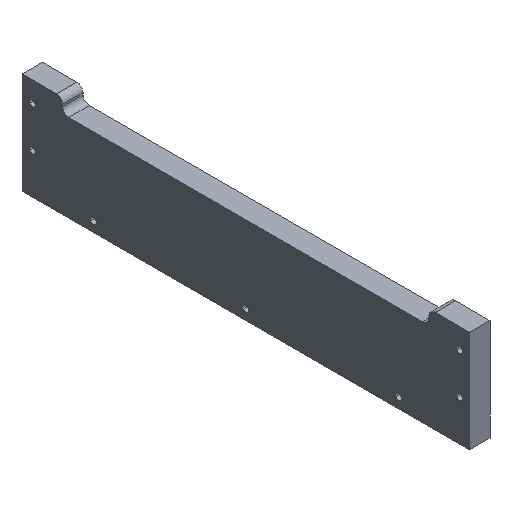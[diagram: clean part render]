
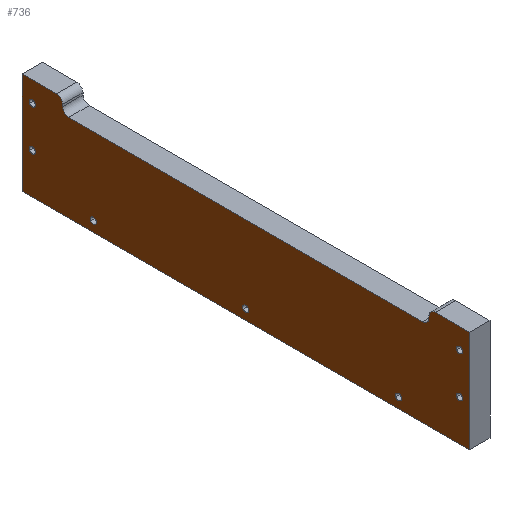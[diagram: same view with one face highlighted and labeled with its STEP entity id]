
A CAD part, isometric view. The second image highlights one B-rep face of the part: STEP entity #736.
In plain terms, the highlighted planar face has unit normal (-1, 0, 0).
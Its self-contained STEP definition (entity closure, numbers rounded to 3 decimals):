
#61=CARTESIAN_POINT('Vertex',(-10.,3.684,40.719)) ;
#66=CARTESIAN_POINT('Axis2P3D Location',(-10.,5.,40.)) ;
#70=CARTESIAN_POINT('Vertex',(-10.,6.316,39.281)) ;
#92=CARTESIAN_POINT('Axis2P3D Location',(-10.,5.,40.)) ;
#114=CARTESIAN_POINT('Line Origine',(-10.,110.,0.)) ;
#118=CARTESIAN_POINT('Vertex',(-10.,0.,0.)) ;
#120=CARTESIAN_POINT('Vertex',(-10.,220.,0.)) ;
#154=CARTESIAN_POINT('Line Origine',(-10.,220.,25.)) ;
#158=CARTESIAN_POINT('Vertex',(-10.,220.,50.)) ;
#185=CARTESIAN_POINT('Line Origine',(-10.,211.5,50.)) ;
#189=CARTESIAN_POINT('Vertex',(-10.,203.,50.)) ;
#216=CARTESIAN_POINT('Axis2P3D Location',(-10.,203.,47.)) ;
#220=CARTESIAN_POINT('Vertex',(-10.,200.,47.)) ;
#247=CARTESIAN_POINT('Line Origine',(-10.,200.,46.5)) ;
#251=CARTESIAN_POINT('Vertex',(-10.,200.,46.)) ;
#278=CARTESIAN_POINT('Axis2P3D Location',(-10.,197.,46.)) ;
#282=CARTESIAN_POINT('Vertex',(-10.,197.,43.)) ;
#309=CARTESIAN_POINT('Line Origine',(-10.,110.,43.)) ;
#313=CARTESIAN_POINT('Vertex',(-10.,23.,43.)) ;
#340=CARTESIAN_POINT('Axis2P3D Location',(-10.,23.,46.)) ;
#344=CARTESIAN_POINT('Vertex',(-10.,20.,46.)) ;
#371=CARTESIAN_POINT('Line Origine',(-10.,20.,46.5)) ;
#375=CARTESIAN_POINT('Vertex',(-10.,20.,47.)) ;
#402=CARTESIAN_POINT('Axis2P3D Location',(-10.,17.,47.)) ;
#406=CARTESIAN_POINT('Vertex',(-10.,17.,50.)) ;
#428=CARTESIAN_POINT('Line Origine',(-10.,8.5,50.)) ;
#432=CARTESIAN_POINT('Vertex',(-10.,0.,50.)) ;
#459=CARTESIAN_POINT('Line Origine',(-10.,0.,25.)) ;
#485=CARTESIAN_POINT('Vertex',(-10.,186.316,4.281)) ;
#490=CARTESIAN_POINT('Axis2P3D Location',(-10.,185.,5.)) ;
#494=CARTESIAN_POINT('Vertex',(-10.,183.684,5.719)) ;
#516=CARTESIAN_POINT('Axis2P3D Location',(-10.,185.,5.)) ;
#542=CARTESIAN_POINT('Vertex',(-10.,111.316,4.281)) ;
#547=CARTESIAN_POINT('Axis2P3D Location',(-10.,110.,5.)) ;
#551=CARTESIAN_POINT('Vertex',(-10.,108.684,5.719)) ;
#573=CARTESIAN_POINT('Axis2P3D Location',(-10.,110.,5.)) ;
#599=CARTESIAN_POINT('Vertex',(-10.,33.684,5.719)) ;
#604=CARTESIAN_POINT('Axis2P3D Location',(-10.,35.,5.)) ;
#608=CARTESIAN_POINT('Vertex',(-10.,36.316,4.281)) ;
#630=CARTESIAN_POINT('Axis2P3D Location',(-10.,35.,5.)) ;
#647=CARTESIAN_POINT('Axis2P3D Location',(-10.,0.,0.)) ;
#682=CARTESIAN_POINT('Axis2P3D Location',(-10.,5.,20.)) ;
#686=CARTESIAN_POINT('Vertex',(-10.,3.684,20.719)) ;
#688=CARTESIAN_POINT('Vertex',(-10.,6.316,19.281)) ;
#691=CARTESIAN_POINT('Axis2P3D Location',(-10.,5.,20.)) ;
#700=CARTESIAN_POINT('Axis2P3D Location',(-10.,215.,40.)) ;
#704=CARTESIAN_POINT('Vertex',(-10.,213.684,40.719)) ;
#706=CARTESIAN_POINT('Vertex',(-10.,216.316,39.281)) ;
#709=CARTESIAN_POINT('Axis2P3D Location',(-10.,215.,40.)) ;
#718=CARTESIAN_POINT('Axis2P3D Location',(-10.,215.,20.)) ;
#722=CARTESIAN_POINT('Vertex',(-10.,213.684,20.719)) ;
#724=CARTESIAN_POINT('Vertex',(-10.,216.316,19.281)) ;
#727=CARTESIAN_POINT('Axis2P3D Location',(-10.,215.,20.)) ;
#67=DIRECTION('Axis2P3D Direction',(-1.,0.,-0.)) ;
#93=DIRECTION('Axis2P3D Direction',(-1.,0.,-0.)) ;
#115=DIRECTION('Vector Direction',(0.,1.,0.)) ;
#155=DIRECTION('Vector Direction',(0.,0.,1.)) ;
#186=DIRECTION('Vector Direction',(0.,-1.,0.)) ;
#217=DIRECTION('Axis2P3D Direction',(1.,0.,0.)) ;
#248=DIRECTION('Vector Direction',(0.,0.,1.)) ;
#279=DIRECTION('Axis2P3D Direction',(1.,0.,0.)) ;
#310=DIRECTION('Vector Direction',(0.,-1.,0.)) ;
#341=DIRECTION('Axis2P3D Direction',(1.,0.,0.)) ;
#372=DIRECTION('Vector Direction',(0.,0.,-1.)) ;
#403=DIRECTION('Axis2P3D Direction',(1.,0.,0.)) ;
#429=DIRECTION('Vector Direction',(0.,-1.,0.)) ;
#460=DIRECTION('Vector Direction',(0.,0.,-1.)) ;
#491=DIRECTION('Axis2P3D Direction',(-1.,0.,0.)) ;
#517=DIRECTION('Axis2P3D Direction',(-1.,0.,0.)) ;
#548=DIRECTION('Axis2P3D Direction',(-1.,0.,0.)) ;
#574=DIRECTION('Axis2P3D Direction',(-1.,0.,0.)) ;
#605=DIRECTION('Axis2P3D Direction',(-1.,0.,-0.)) ;
#631=DIRECTION('Axis2P3D Direction',(-1.,0.,-0.)) ;
#648=DIRECTION('Axis2P3D Direction',(1.,0.,0.)) ;
#649=DIRECTION('Axis2P3D XDirection',(0.,1.,0.)) ;
#683=DIRECTION('Axis2P3D Direction',(1.,0.,0.)) ;
#692=DIRECTION('Axis2P3D Direction',(1.,0.,0.)) ;
#701=DIRECTION('Axis2P3D Direction',(1.,0.,0.)) ;
#710=DIRECTION('Axis2P3D Direction',(1.,0.,0.)) ;
#719=DIRECTION('Axis2P3D Direction',(1.,0.,0.)) ;
#728=DIRECTION('Axis2P3D Direction',(1.,0.,0.)) ;
#68=AXIS2_PLACEMENT_3D('Circle Axis2P3D',#66,#67,$) ;
#94=AXIS2_PLACEMENT_3D('Circle Axis2P3D',#92,#93,$) ;
#218=AXIS2_PLACEMENT_3D('Circle Axis2P3D',#216,#217,$) ;
#280=AXIS2_PLACEMENT_3D('Circle Axis2P3D',#278,#279,$) ;
#342=AXIS2_PLACEMENT_3D('Circle Axis2P3D',#340,#341,$) ;
#404=AXIS2_PLACEMENT_3D('Circle Axis2P3D',#402,#403,$) ;
#492=AXIS2_PLACEMENT_3D('Circle Axis2P3D',#490,#491,$) ;
#518=AXIS2_PLACEMENT_3D('Circle Axis2P3D',#516,#517,$) ;
#549=AXIS2_PLACEMENT_3D('Circle Axis2P3D',#547,#548,$) ;
#575=AXIS2_PLACEMENT_3D('Circle Axis2P3D',#573,#574,$) ;
#606=AXIS2_PLACEMENT_3D('Circle Axis2P3D',#604,#605,$) ;
#632=AXIS2_PLACEMENT_3D('Circle Axis2P3D',#630,#631,$) ;
#650=AXIS2_PLACEMENT_3D('Plane Axis2P3D',#647,#648,#649) ;
#684=AXIS2_PLACEMENT_3D('Circle Axis2P3D',#682,#683,$) ;
#693=AXIS2_PLACEMENT_3D('Circle Axis2P3D',#691,#692,$) ;
#702=AXIS2_PLACEMENT_3D('Circle Axis2P3D',#700,#701,$) ;
#711=AXIS2_PLACEMENT_3D('Circle Axis2P3D',#709,#710,$) ;
#720=AXIS2_PLACEMENT_3D('Circle Axis2P3D',#718,#719,$) ;
#729=AXIS2_PLACEMENT_3D('Circle Axis2P3D',#727,#728,$) ;
#653=ORIENTED_EDGE('',*,*,#463,.F.) ;
#654=ORIENTED_EDGE('',*,*,#434,.F.) ;
#655=ORIENTED_EDGE('',*,*,#408,.F.) ;
#656=ORIENTED_EDGE('',*,*,#377,.F.) ;
#657=ORIENTED_EDGE('',*,*,#346,.F.) ;
#658=ORIENTED_EDGE('',*,*,#315,.F.) ;
#659=ORIENTED_EDGE('',*,*,#284,.F.) ;
#660=ORIENTED_EDGE('',*,*,#253,.F.) ;
#661=ORIENTED_EDGE('',*,*,#222,.F.) ;
#662=ORIENTED_EDGE('',*,*,#191,.F.) ;
#663=ORIENTED_EDGE('',*,*,#160,.F.) ;
#664=ORIENTED_EDGE('',*,*,#122,.F.) ;
#667=ORIENTED_EDGE('',*,*,#72,.T.) ;
#668=ORIENTED_EDGE('',*,*,#96,.T.) ;
#671=ORIENTED_EDGE('',*,*,#610,.T.) ;
#672=ORIENTED_EDGE('',*,*,#634,.T.) ;
#675=ORIENTED_EDGE('',*,*,#553,.T.) ;
#676=ORIENTED_EDGE('',*,*,#577,.T.) ;
#679=ORIENTED_EDGE('',*,*,#496,.T.) ;
#680=ORIENTED_EDGE('',*,*,#520,.T.) ;
#697=ORIENTED_EDGE('',*,*,#690,.T.) ;
#698=ORIENTED_EDGE('',*,*,#695,.T.) ;
#715=ORIENTED_EDGE('',*,*,#708,.T.) ;
#716=ORIENTED_EDGE('',*,*,#713,.T.) ;
#733=ORIENTED_EDGE('',*,*,#726,.T.) ;
#734=ORIENTED_EDGE('',*,*,#731,.T.) ;
#669=FACE_BOUND('',#666,.T.) ;
#673=FACE_BOUND('',#670,.T.) ;
#677=FACE_BOUND('',#674,.T.) ;
#681=FACE_BOUND('',#678,.T.) ;
#699=FACE_BOUND('',#696,.T.) ;
#717=FACE_BOUND('',#714,.T.) ;
#735=FACE_BOUND('',#732,.T.) ;
#116=VECTOR('Line Direction',#115,1.) ;
#156=VECTOR('Line Direction',#155,1.) ;
#187=VECTOR('Line Direction',#186,1.) ;
#249=VECTOR('Line Direction',#248,1.) ;
#311=VECTOR('Line Direction',#310,1.) ;
#373=VECTOR('Line Direction',#372,1.) ;
#430=VECTOR('Line Direction',#429,1.) ;
#461=VECTOR('Line Direction',#460,1.) ;
#736=ADVANCED_FACE('Corps principal',(#665,#669,#673,#677,#681,#699,#717,#735),#651,.F.) ;
#69=CIRCLE('generated circle',#68,1.5) ;
#95=CIRCLE('generated circle',#94,1.5) ;
#219=CIRCLE('generated circle',#218,3.) ;
#281=CIRCLE('generated circle',#280,3.) ;
#343=CIRCLE('generated circle',#342,3.) ;
#405=CIRCLE('generated circle',#404,3.) ;
#493=CIRCLE('generated circle',#492,1.5) ;
#519=CIRCLE('generated circle',#518,1.5) ;
#550=CIRCLE('generated circle',#549,1.5) ;
#576=CIRCLE('generated circle',#575,1.5) ;
#607=CIRCLE('generated circle',#606,1.5) ;
#633=CIRCLE('generated circle',#632,1.5) ;
#685=CIRCLE('generated circle',#684,1.5) ;
#694=CIRCLE('generated circle',#693,1.5) ;
#703=CIRCLE('generated circle',#702,1.5) ;
#712=CIRCLE('generated circle',#711,1.5) ;
#721=CIRCLE('generated circle',#720,1.5) ;
#730=CIRCLE('generated circle',#729,1.5) ;
#72=EDGE_CURVE('',#71,#62,#69,.F.) ;
#96=EDGE_CURVE('',#62,#71,#95,.F.) ;
#122=EDGE_CURVE('',#119,#121,#117,.T.) ;
#160=EDGE_CURVE('',#121,#159,#157,.T.) ;
#191=EDGE_CURVE('',#159,#190,#188,.T.) ;
#222=EDGE_CURVE('',#190,#221,#219,.T.) ;
#253=EDGE_CURVE('',#221,#252,#250,.F.) ;
#284=EDGE_CURVE('',#252,#283,#281,.F.) ;
#315=EDGE_CURVE('',#283,#314,#312,.T.) ;
#346=EDGE_CURVE('',#314,#345,#343,.F.) ;
#377=EDGE_CURVE('',#345,#376,#374,.F.) ;
#408=EDGE_CURVE('',#376,#407,#405,.T.) ;
#434=EDGE_CURVE('',#407,#433,#431,.T.) ;
#463=EDGE_CURVE('',#433,#119,#462,.T.) ;
#496=EDGE_CURVE('',#495,#486,#493,.F.) ;
#520=EDGE_CURVE('',#486,#495,#519,.F.) ;
#553=EDGE_CURVE('',#552,#543,#550,.F.) ;
#577=EDGE_CURVE('',#543,#552,#576,.F.) ;
#610=EDGE_CURVE('',#609,#600,#607,.F.) ;
#634=EDGE_CURVE('',#600,#609,#633,.F.) ;
#690=EDGE_CURVE('',#687,#689,#685,.T.) ;
#695=EDGE_CURVE('',#689,#687,#694,.T.) ;
#708=EDGE_CURVE('',#705,#707,#703,.T.) ;
#713=EDGE_CURVE('',#707,#705,#712,.T.) ;
#726=EDGE_CURVE('',#723,#725,#721,.T.) ;
#731=EDGE_CURVE('',#725,#723,#730,.T.) ;
#652=EDGE_LOOP('',(#653,#654,#655,#656,#657,#658,#659,#660,#661,#662,#663,#664)) ;
#666=EDGE_LOOP('',(#667,#668)) ;
#670=EDGE_LOOP('',(#671,#672)) ;
#674=EDGE_LOOP('',(#675,#676)) ;
#678=EDGE_LOOP('',(#679,#680)) ;
#696=EDGE_LOOP('',(#697,#698)) ;
#714=EDGE_LOOP('',(#715,#716)) ;
#732=EDGE_LOOP('',(#733,#734)) ;
#665=FACE_OUTER_BOUND('',#652,.T.) ;
#117=LINE('Line',#114,#116) ;
#157=LINE('Line',#154,#156) ;
#188=LINE('Line',#185,#187) ;
#250=LINE('Line',#247,#249) ;
#312=LINE('Line',#309,#311) ;
#374=LINE('Line',#371,#373) ;
#431=LINE('Line',#428,#430) ;
#462=LINE('Line',#459,#461) ;
#651=PLANE('Plane',#650) ;
#62=VERTEX_POINT('',#61) ;
#71=VERTEX_POINT('',#70) ;
#119=VERTEX_POINT('',#118) ;
#121=VERTEX_POINT('',#120) ;
#159=VERTEX_POINT('',#158) ;
#190=VERTEX_POINT('',#189) ;
#221=VERTEX_POINT('',#220) ;
#252=VERTEX_POINT('',#251) ;
#283=VERTEX_POINT('',#282) ;
#314=VERTEX_POINT('',#313) ;
#345=VERTEX_POINT('',#344) ;
#376=VERTEX_POINT('',#375) ;
#407=VERTEX_POINT('',#406) ;
#433=VERTEX_POINT('',#432) ;
#486=VERTEX_POINT('',#485) ;
#495=VERTEX_POINT('',#494) ;
#543=VERTEX_POINT('',#542) ;
#552=VERTEX_POINT('',#551) ;
#600=VERTEX_POINT('',#599) ;
#609=VERTEX_POINT('',#608) ;
#687=VERTEX_POINT('',#686) ;
#689=VERTEX_POINT('',#688) ;
#705=VERTEX_POINT('',#704) ;
#707=VERTEX_POINT('',#706) ;
#723=VERTEX_POINT('',#722) ;
#725=VERTEX_POINT('',#724) ;
